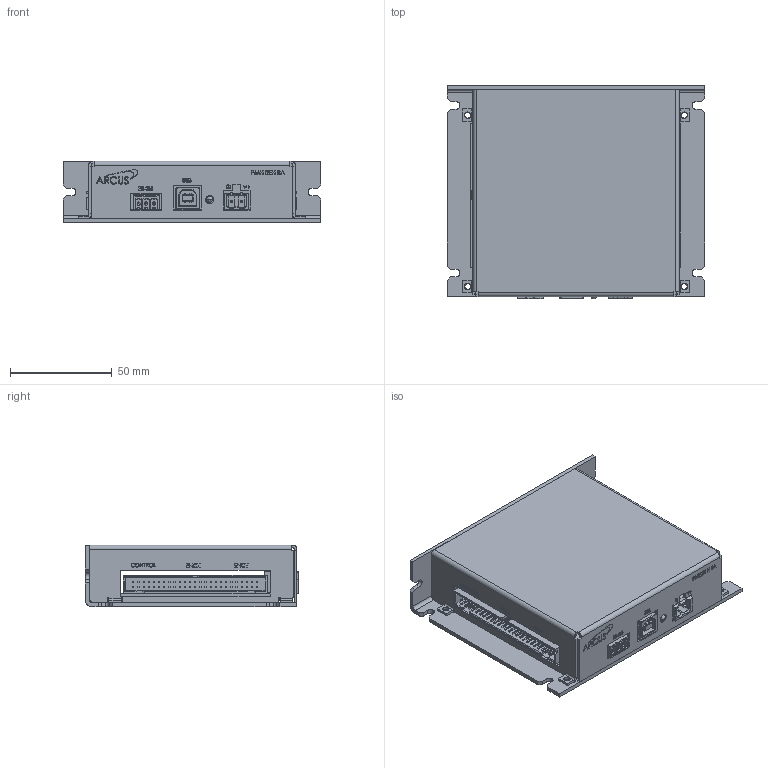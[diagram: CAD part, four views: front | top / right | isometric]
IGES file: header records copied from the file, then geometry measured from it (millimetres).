
Start section: SolidWorks IGES file using analytic representation for surfaces
Global section: file name: C:\Users\IEUser\Documents\Christine folder\Arcus\Project #26 PMX Drawings\PMX-2EX-SA\PMX-2EX-SA Assy.IGS; native system: SolidWorks 2008; preprocessor: SolidWorks 2008; author: IEUser; date: 140502.111238; units: inch
Bounding box: 127 x 105.14 x 30.48 mm (x, y, z)
Surface area: 101028.2 mm2 (no closed solid volume)
Topology: 0 solids, 0 shells, 3602 faces, 27457 edges, 27449 vertices
Faces by surface type: bspline 3103, revolution 499
